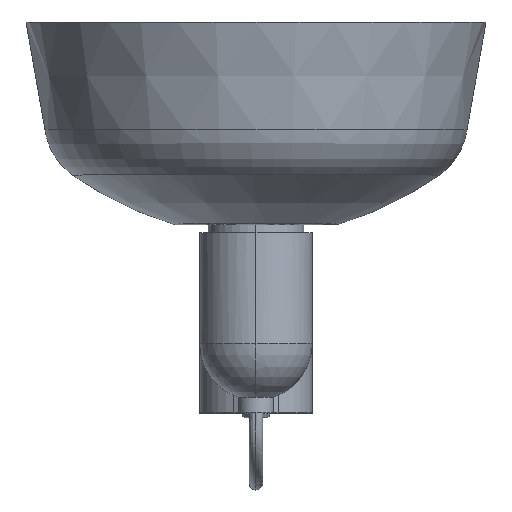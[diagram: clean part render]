
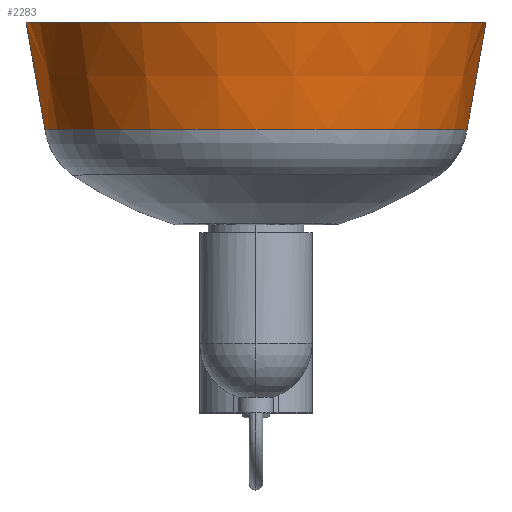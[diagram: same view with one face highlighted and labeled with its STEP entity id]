
A CAD part, top view. The second image highlights one B-rep face of the part: STEP entity #2283.
In plain terms, the highlighted conical face has half-angle 9.965 degrees and reference radius 85.212 mm.
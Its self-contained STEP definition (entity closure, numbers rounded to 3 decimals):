
#64=CONICAL_SURFACE('',#2453,85.212,0.174);
#147=CIRCLE('',#2450,92.006);
#149=CIRCLE('',#2454,84.457);
#259=LINE('',#3755,#426);
#260=LINE('',#3758,#427);
#426=VECTOR('',#2758,304.8);
#427=VECTOR('',#2761,304.8);
#654=FACE_OUTER_BOUND('',#804,.T.);
#804=EDGE_LOOP('',(#1651,#1652,#1653,#1654));
#1039=VERTEX_POINT('',#3746);
#1040=VERTEX_POINT('',#3748);
#1041=VERTEX_POINT('',#3754);
#1042=VERTEX_POINT('',#3756);
#1261=EDGE_CURVE('',#1040,#1039,#147,.T.);
#1264=EDGE_CURVE('',#1041,#1039,#259,.T.);
#1265=EDGE_CURVE('',#1042,#1041,#149,.T.);
#1266=EDGE_CURVE('',#1040,#1042,#260,.T.);
#1651=ORIENTED_EDGE('',*,*,#1261,.T.);
#1652=ORIENTED_EDGE('',*,*,#1264,.F.);
#1653=ORIENTED_EDGE('',*,*,#1265,.F.);
#1654=ORIENTED_EDGE('',*,*,#1266,.F.);
#2283=ADVANCED_FACE('',(#654),#64,.T.);
#2450=AXIS2_PLACEMENT_3D('',#3749,#2749,#2750);
#2453=AXIS2_PLACEMENT_3D('',#3753,#2756,#2757);
#2454=AXIS2_PLACEMENT_3D('',#3757,#2759,#2760);
#2749=DIRECTION('center_axis',(-1.,0.,0.));
#2750=DIRECTION('ref_axis',(0.,-0.809,-0.588));
#2756=DIRECTION('center_axis',(1.,0.,0.));
#2757=DIRECTION('ref_axis',(0.,0.,
1.));
#2758=DIRECTION('',(0.985,0.173,0.));
#2759=DIRECTION('center_axis',(-1.,0.,0.));
#2760=DIRECTION('ref_axis',(0.,-0.809,-0.588));
#2761=DIRECTION('',(-0.985,0.173,0.));
#3746=CARTESIAN_POINT('',(122.369,92.006,118.));
#3748=CARTESIAN_POINT('',(122.369,-92.006,118.));
#3749=CARTESIAN_POINT('Origin',(122.369,0.,
118.));
#3753=CARTESIAN_POINT('Origin',(83.699,0.,118.));
#3754=CARTESIAN_POINT('',(79.403,84.457,118.));
#3755=CARTESIAN_POINT('',(79.403,84.457,118.));
#3756=CARTESIAN_POINT('',(79.403,-84.457,118.));
#3757=CARTESIAN_POINT('Origin',(79.403,0.,
118.));
#3758=CARTESIAN_POINT('',(122.369,-92.006,118.));
